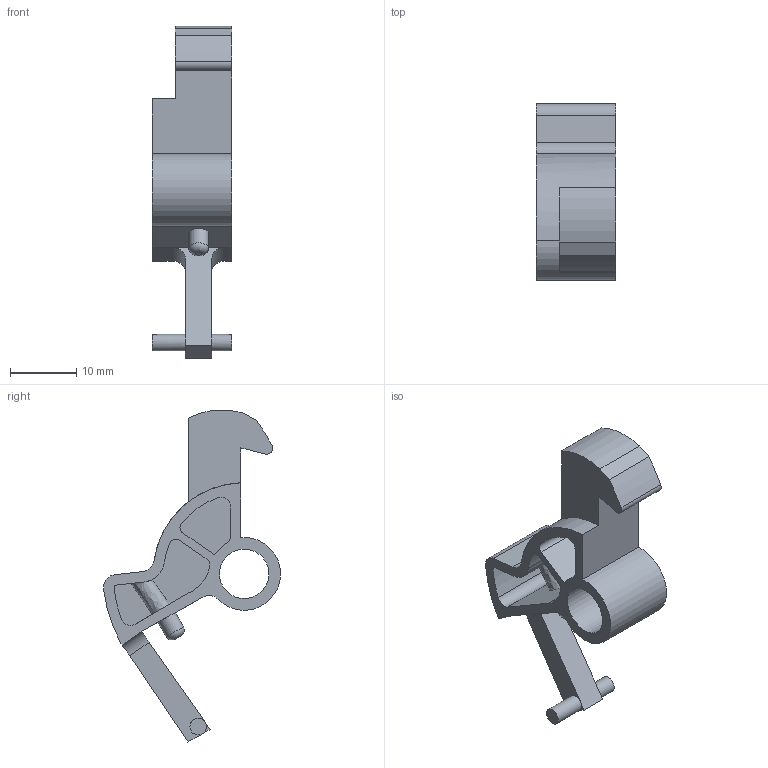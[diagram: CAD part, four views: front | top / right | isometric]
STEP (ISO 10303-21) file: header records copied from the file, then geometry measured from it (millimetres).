
FILE_DESCRIPTION(('STEP AP203'), '1');
FILE_NAME('ÀÂÁ.0001 Êðåïëåíèå îò ïûëåñîñàñà', '', ('UNSPECIFIED'), ('UNSPECIFIED'), 'C3D Converter', 'C3D Toolkit', '');
FILE_SCHEMA(('CONFIG_CONTROL_DESIGN'));
Length unit declared in the file: millimetre
Products named in the file (1): АВБ.0001
Bounding box: 12 x 26.78 x 50.26 mm (x, y, z)
Volume: 3428.6 mm3; surface area: 3439.5 mm2
Topology: 1 solids, 1 shells, 59 faces, 158 edges, 103 vertices
Faces by surface type: cylinder 29, plane 28, bspline 1, torus 1
Full cylindrical faces by diameter (mm): 2.5 x2, 3 x1, 7.5 x1
Entity records: 2470 total; most frequent: CARTESIAN_POINT 460, DIRECTION 326, ORIENTED_EDGE 304, EDGE_CURVE 152, AXIS2_PLACEMENT_3D 121, VERTEX_POINT 103, LINE 84, VECTOR 84
